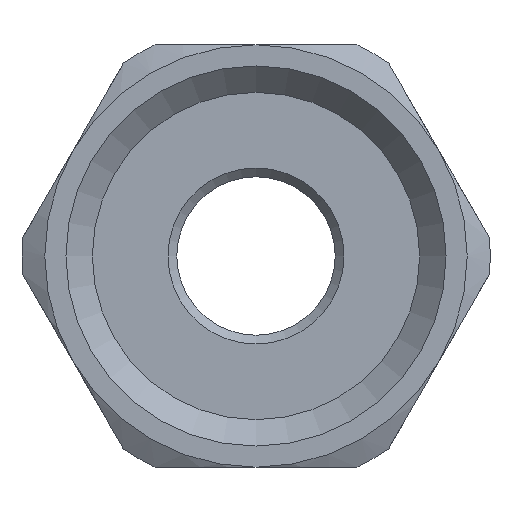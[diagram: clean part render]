
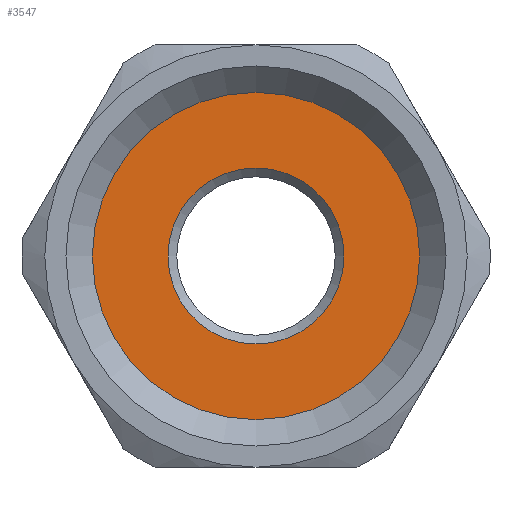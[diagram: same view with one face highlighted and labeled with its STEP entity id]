
A CAD part, front view. The second image highlights one B-rep face of the part: STEP entity #3547.
In plain terms, the highlighted planar face has unit normal (0, -1, 0).
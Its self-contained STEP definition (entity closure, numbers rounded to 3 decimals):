
#85 = VERTEX_POINT ( 'NONE', #7389 ) ;
#102 = VERTEX_POINT ( 'NONE', #7413 ) ;
#1123 = DIRECTION ( 'NONE',  ( 1., 0., 0. ) ) ;
#1125 = PLANE ( 'NONE',  #3901 ) ;
#1127 = DIRECTION ( 'NONE',  ( 0., -1., 0. ) ) ;
#1132 = CARTESIAN_POINT ( 'NONE',  ( 9.3, -16., 0. ) ) ;
#3221 = DIRECTION ( 'NONE',  ( -1., 0., 0. ) ) ;
#3222 = DIRECTION ( 'NONE',  ( 0., 1., 0. ) ) ;
#3223 = CARTESIAN_POINT ( 'NONE',  ( 0., -16., 0. ) ) ;
#3494 = AXIS2_PLACEMENT_3D ( 'NONE', #4756, #4755, #4754 ) ;
#3547 = ADVANCED_FACE ( 'NONE', ( #5751, #5754 ), #1125, .T. ) ;
#3869 = AXIS2_PLACEMENT_3D ( 'NONE', #3223, #3222, #3221 ) ;
#3901 = AXIS2_PLACEMENT_3D ( 'NONE', #1132, #1127, #1123 ) ;
#4008 = EDGE_CURVE ( 'NONE', #85, #85, #5932, .T. ) ;
#4059 = EDGE_CURVE ( 'NONE', #102, #102, #5964, .T. ) ;
#4754 = DIRECTION ( 'NONE',  ( -1., 0., 0. ) ) ;
#4755 = DIRECTION ( 'NONE',  ( 0., 1., 0. ) ) ;
#4756 = CARTESIAN_POINT ( 'NONE',  ( 0., -16., 0. ) ) ;
#4911 = EDGE_LOOP ( 'NONE', ( #10627 ) ) ;
#4940 = EDGE_LOOP ( 'NONE', ( #10626 ) ) ;
#5751 = FACE_BOUND ( 'NONE', #4940, .T. ) ;
#5754 = FACE_OUTER_BOUND ( 'NONE', #4911, .T. ) ;
#5932 = CIRCLE ( 'NONE', #3494, 9.3 ) ;
#5964 = CIRCLE ( 'NONE', #3869, 5. ) ;
#7389 = CARTESIAN_POINT ( 'NONE',  ( -9.3, -16., 0. ) ) ;
#7413 = CARTESIAN_POINT ( 'NONE',  ( -5., -16., 0. ) ) ;
#10626 = ORIENTED_EDGE ( 'NONE', *, *, #4059, .T. ) ;
#10627 = ORIENTED_EDGE ( 'NONE', *, *, #4008, .F. ) ;
